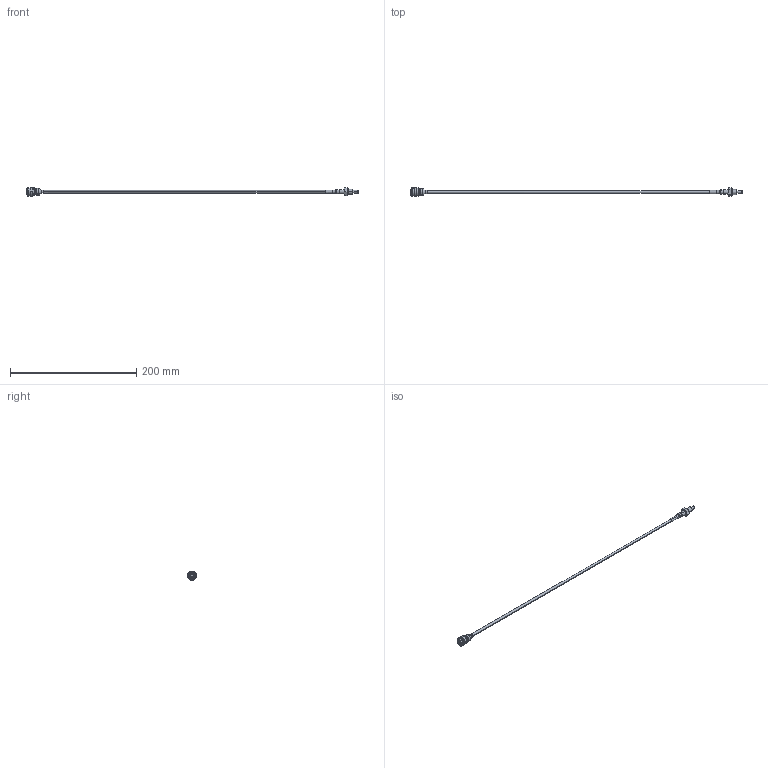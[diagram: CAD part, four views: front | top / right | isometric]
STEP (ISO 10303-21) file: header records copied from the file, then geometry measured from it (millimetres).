
FILE_DESCRIPTION(('CATIA V5 STEP Exchange'),'2;1');
FILE_NAME('\\bosch.com\dfsrb\DfsDE\DIV\BEG\MSD\Gruppen\MSDP\01_Austausch\!Limitierte Beschäftigte\Praktikanten\HnA\3D Modelle Katalog\Neu\Sensoren\Temperatur\NTC_M8-HS.stp','2014-03-21T13:52:31+00:00',('none'),('none'),'CATIA Version 5 Release 19 SP 9 (IN-10)','CATIA V5 STEP AP214','none');
FILE_SCHEMA(('AUTOMOTIVE_DESIGN { 1 0 10303 214 1 1 1 1 }'));
Length unit declared in the file: millimetre
Products named in the file (1): NTC_M8-HS
Bounding box: 526.82 x 14.59 x 14.28 mm (x, y, z)
Volume: 9699.3 mm3; surface area: 9394.2 mm2
Topology: 1 solids, 2 shells, 214 faces, 541 edges, 345 vertices
Faces by surface type: cylinder 100, plane 69, torus 19, sphere 10, cone 8, revolution 8
Entity records: 7537 total; most frequent: CARTESIAN_POINT 1239, ORIENTED_EDGE 1066, DIRECTION 782, EDGE_CURVE 531, AXIS2_PLACEMENT_3D 416, VERTEX_POINT 345, CIRCLE 281, EDGE_LOOP 248
